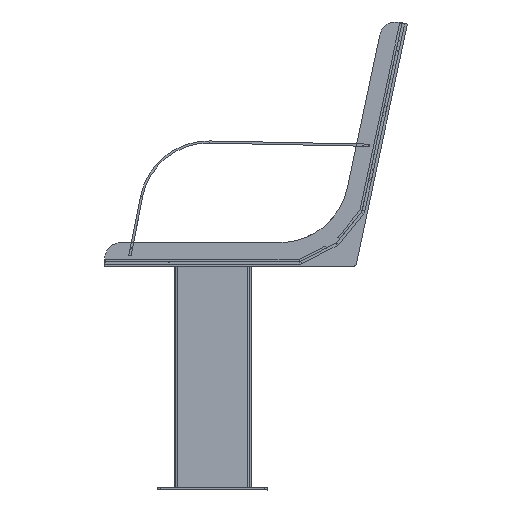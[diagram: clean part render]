
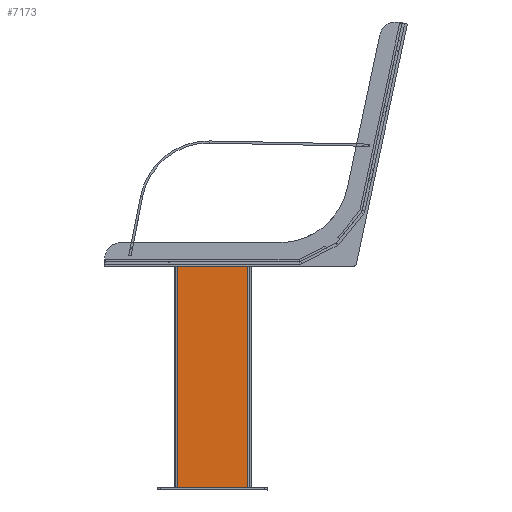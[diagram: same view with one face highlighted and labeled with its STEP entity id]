
A CAD part, left-side view. The second image highlights one B-rep face of the part: STEP entity #7173.
In plain terms, the highlighted planar face has unit normal (-1, 0, 0) as drawn and (0, 1, 0) by its records, which use the part's own axes.
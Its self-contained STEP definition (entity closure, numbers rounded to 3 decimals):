
#399=PLANE('',#8032);
#764=FACE_OUTER_BOUND('',#1181,.T.);
#1181=EDGE_LOOP('',(#6061,#6062,#6063,#6064));
#1798=LINE('',#11951,#2519);
#1799=LINE('',#11954,#2520);
#1800=LINE('',#11956,#2521);
#1801=LINE('',#11957,#2522);
#2519=VECTOR('',#9797,415.);
#2520=VECTOR('',#9800,128.);
#2521=VECTOR('',#9801,128.);
#2522=VECTOR('',#9802,415.);
#3480=VERTEX_POINT('',#11947);
#3481=VERTEX_POINT('',#11949);
#3482=VERTEX_POINT('',#11953);
#3483=VERTEX_POINT('',#11955);
#4374=EDGE_CURVE('',#3481,#3480,#1798,.T.);
#4375=EDGE_CURVE('',#3480,#3482,#1799,.T.);
#4376=EDGE_CURVE('',#3481,#3483,#1800,.T.);
#4377=EDGE_CURVE('',#3483,#3482,#1801,.T.);
#6061=ORIENTED_EDGE('',*,*,#4375,.F.);
#6062=ORIENTED_EDGE('',*,*,#4374,.F.);
#6063=ORIENTED_EDGE('',*,*,#4376,.T.);
#6064=ORIENTED_EDGE('',*,*,#4377,.T.);
#7173=ADVANCED_FACE('',(#764),#399,.F.);
#8032=AXIS2_PLACEMENT_3D('',#11952,#9798,#9799);
#9797=DIRECTION('',(-1.,0.,0.));
#9798=DIRECTION('center_axis',(0.,-1.,0.));
#9799=DIRECTION('ref_axis',(0.,0.,-1.));
#9800=DIRECTION('',(0.,0.,-1.));
#9801=DIRECTION('',(0.,0.,-1.));
#9802=DIRECTION('',(-1.,0.,0.));
#11947=CARTESIAN_POINT('',(0.,35.,64.));
#11949=CARTESIAN_POINT('',(415.,35.,64.));
#11951=CARTESIAN_POINT('',(415.,35.,64.));
#11952=CARTESIAN_POINT('Origin',(415.,35.,-64.));
#11953=CARTESIAN_POINT('',(0.,35.,-64.));
#11954=CARTESIAN_POINT('',(0.,35.,64.));
#11955=CARTESIAN_POINT('',(415.,35.,-64.));
#11956=CARTESIAN_POINT('',(415.,35.,64.));
#11957=CARTESIAN_POINT('',(415.,35.,-64.));
